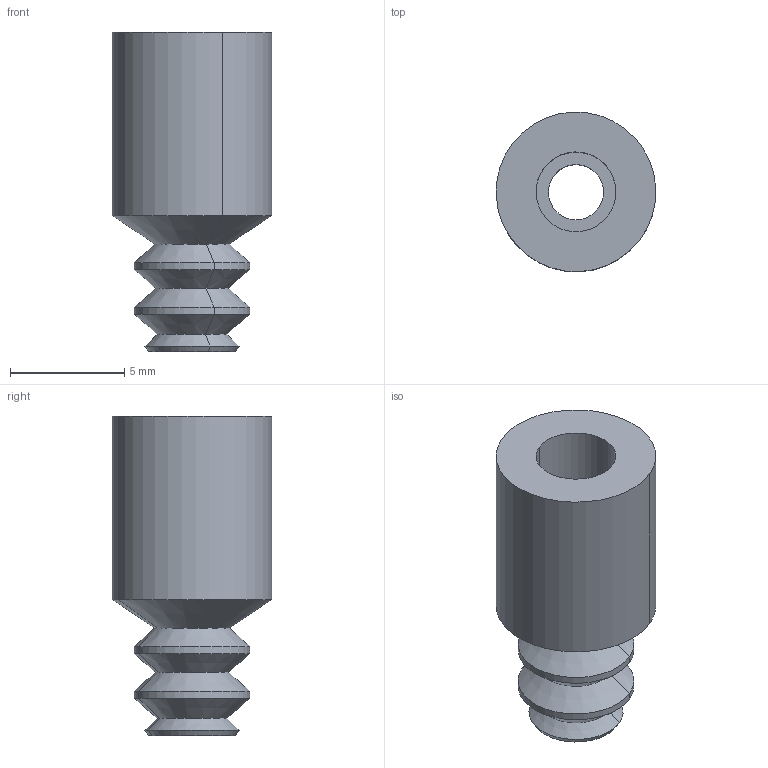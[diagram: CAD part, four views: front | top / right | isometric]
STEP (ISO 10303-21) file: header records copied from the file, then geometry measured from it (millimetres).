
FILE_DESCRIPTION(('STEP AP214'),'1');
FILE_NAME('10_01_06_04138.stp','2020-10-24T00:13:06',('TraceParts'),('TraceParts S.A.'),'Spatial InterOp 3D',' ',' ');
FILE_SCHEMA(('AUTOMOTIVE_DESIGN { 1 0 10303 214 1 1 1 1 }'));
Length unit declared in the file: millimetre
Products named in the file (1): 10_01_06_04138
Bounding box: 6.99 x 6.99 x 14 mm (x, y, z)
Volume: 292 mm3; surface area: 483.8 mm2
Topology: 1 solids, 1 shells, 38 faces, 76 edges, 42 vertices
Faces by surface type: cone 20, cylinder 14, plane 4
Entity records: 1307 total; most frequent: DIRECTION 196, CARTESIAN_POINT 157, ORIENTED_EDGE 152, AXIS2_PLACEMENT_3D 81, EDGE_CURVE 76, EDGE_LOOP 42, VERTEX_POINT 42, CIRCLE 42
